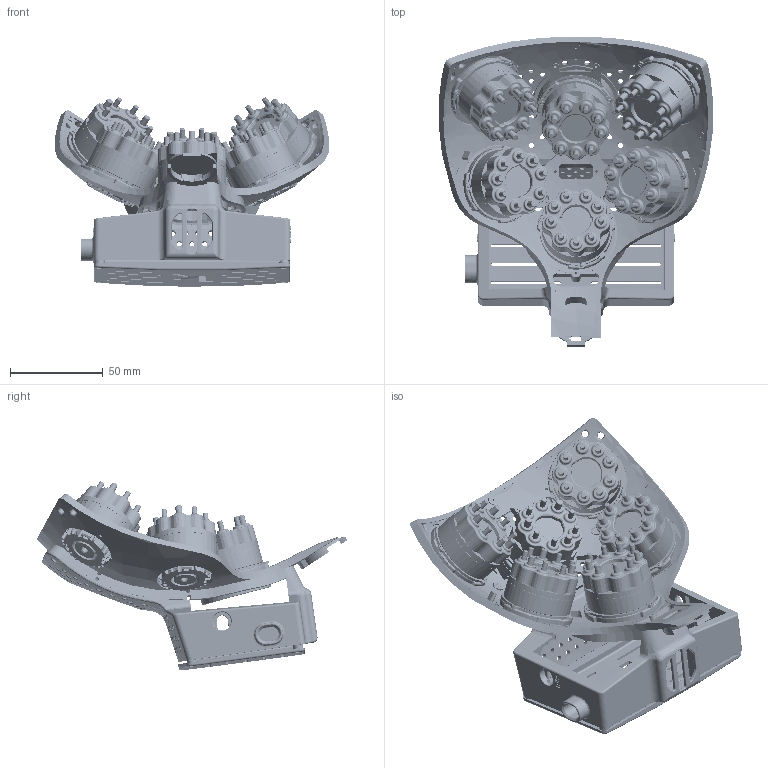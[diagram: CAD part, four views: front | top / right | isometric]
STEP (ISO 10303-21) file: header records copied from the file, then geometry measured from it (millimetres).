
FILE_DESCRIPTION (( 'STEP AP214' ), '1' );
FILE_NAME ('Kernel_Flow2_Simplified_RearPlate_wModules.STEP', '2024-10-04T12:59:14', ( '' ), ( '' ), 'SwSTEP 2.0', 'SolidWorks 2023', '' );
FILE_SCHEMA (( 'AUTOMOTIVE_DESIGN' ));
Length unit declared in the file: millimetre
Products named in the file (10): Kernel Generic Module Flow2.STEP_M28; Kernel Generic Module Flow2.STEP_M38; Kernel_Flow2_Simplified_RearPlate_wModules; Kernel Generic Module Flow2.STEP_M30; Kernel Generic Module Flow2.STEP_M29; Kernel_Flow2_Simplified_Rear_Outer_Cover_Rev4; Kernel Generic Module Flow2.STEP_M31; Kernel_Flow2_Simplified_Rear_Hub_Cover_Rev1; Kernel Generic Module Flow2.STEP_M39; Kernel_Flow2_Simplified_Rear_Plate_Rev2
Assembly tree (9 placements, depth 2):
  Kernel_Flow2_Simplified_RearPlate_wModules
    Kernel_Flow2_Simplified_Rear_Plate_Rev2
    Kernel_Flow2_Simplified_Rear_Outer_Cover_Rev4
    Kernel_Flow2_Simplified_Rear_Hub_Cover_Rev1
    Kernel Generic Module Flow2.STEP_M38
    Kernel Generic Module Flow2.STEP_M29
    Kernel Generic Module Flow2.STEP_M28
    Kernel Generic Module Flow2.STEP_M30
    Kernel Generic Module Flow2.STEP_M31
    Kernel Generic Module Flow2.STEP_M39
Bounding box: 147.87 x 167.28 x 101.82 mm (x, y, z)
Volume: 50070.2 mm3; surface area: 187832.8 mm2
Topology: 2 solids, 119 shells, 7531 faces, 19371 edges, 12091 vertices
Faces by surface type: cylinder 2654, plane 1654, torus 1038, bspline 992, cone 871, sphere 322
Entity records: 363072 total; most frequent: CARTESIAN_POINT 186421, ORIENTED_EDGE 38248, DIRECTION 35716, EDGE_CURVE 19151, AXIS2_PLACEMENT_3D 15022, VERTEX_POINT 12036, CIRCLE 8482, EDGE_LOOP 8137
